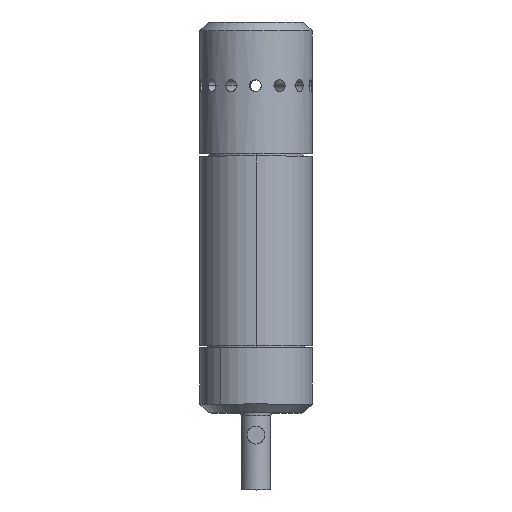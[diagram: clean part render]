
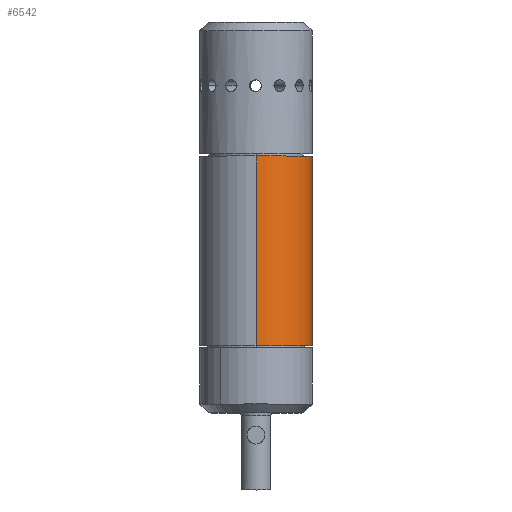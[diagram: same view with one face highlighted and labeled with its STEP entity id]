
A CAD part, top view. The second image highlights one B-rep face of the part: STEP entity #6542.
In plain terms, the highlighted cylindrical face has radius 19 mm (diameter 38 mm), a partial arc.
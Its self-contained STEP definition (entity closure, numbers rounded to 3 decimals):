
#22 = VERTEX_POINT ( 'NONE', #3123 ) ;
#91 = EDGE_CURVE ( 'NONE', #7540, #22, #3751, .T. ) ;
#100 = EDGE_LOOP ( 'NONE', ( #2632, #1949, #4021, #4281 ) ) ;
#702 = CARTESIAN_POINT ( 'NONE',  ( 0., 11., 0. ) ) ;
#790 = CARTESIAN_POINT ( 'NONE',  ( 0., 75., -19. ) ) ;
#881 = FACE_OUTER_BOUND ( 'NONE', #100, .T. ) ;
#943 = DIRECTION ( 'NONE',  ( 0., -1., 0. ) ) ;
#1058 = EDGE_CURVE ( 'NONE', #6580, #7540, #3640, .T. ) ;
#1095 = AXIS2_PLACEMENT_3D ( 'NONE', #2779, #6871, #3371 ) ;
#1295 = DIRECTION ( 'NONE',  ( 0., 0., -1. ) ) ;
#1660 = AXIS2_PLACEMENT_3D ( 'NONE', #702, #4783, #1295 ) ;
#1683 = LINE ( 'NONE', #2682, #4616 ) ;
#1949 = ORIENTED_EDGE ( 'NONE', *, *, #3270, .T. ) ;
#2069 = DIRECTION ( 'NONE',  ( 0., 0., -1. ) ) ;
#2632 = ORIENTED_EDGE ( 'NONE', *, *, #1058, .F. ) ;
#2682 = CARTESIAN_POINT ( 'NONE',  ( 0., 90.5, 19. ) ) ;
#2779 = CARTESIAN_POINT ( 'NONE',  ( 0., 75., 0. ) ) ;
#2801 = CIRCLE ( 'NONE', #1660, 19. ) ;
#3123 = CARTESIAN_POINT ( 'NONE',  ( 0., 11., -19. ) ) ;
#3270 = EDGE_CURVE ( 'NONE', #6580, #4579, #1683, .T. ) ;
#3272 = CARTESIAN_POINT ( 'NONE',  ( 0., 75., 19. ) ) ;
#3371 = DIRECTION ( 'NONE',  ( 0., 0., 1. ) ) ;
#3562 = VECTOR ( 'NONE', #5070, 1000. ) ;
#3640 = CIRCLE ( 'NONE', #1095, 19. ) ;
#3751 = LINE ( 'NONE', #7143, #3562 ) ;
#4021 = ORIENTED_EDGE ( 'NONE', *, *, #5852, .F. ) ;
#4082 = CARTESIAN_POINT ( 'NONE',  ( 0., 11., 19. ) ) ;
#4281 = ORIENTED_EDGE ( 'NONE', *, *, #91, .F. ) ;
#4579 = VERTEX_POINT ( 'NONE', #4082 ) ;
#4616 = VECTOR ( 'NONE', #943, 1000. ) ;
#4619 = CYLINDRICAL_SURFACE ( 'NONE', #7083, 19. ) ;
#4783 = DIRECTION ( 'NONE',  ( 0., -1., 0. ) ) ;
#5070 = DIRECTION ( 'NONE',  ( 0., -1., 0. ) ) ;
#5852 = EDGE_CURVE ( 'NONE', #22, #4579, #2801, .T. ) ;
#6161 = CARTESIAN_POINT ( 'NONE',  ( 0., 90.5, 0. ) ) ;
#6542 = ADVANCED_FACE ( 'NONE', ( #881 ), #4619, .T. ) ;
#6580 = VERTEX_POINT ( 'NONE', #3272 ) ;
#6749 = DIRECTION ( 'NONE',  ( 0., -1., 0. ) ) ;
#6871 = DIRECTION ( 'NONE',  ( 0., 1., 0. ) ) ;
#7083 = AXIS2_PLACEMENT_3D ( 'NONE', #6161, #6749, #2069 ) ;
#7143 = CARTESIAN_POINT ( 'NONE',  ( 0., 90.5, -19. ) ) ;
#7540 = VERTEX_POINT ( 'NONE', #790 ) ;
